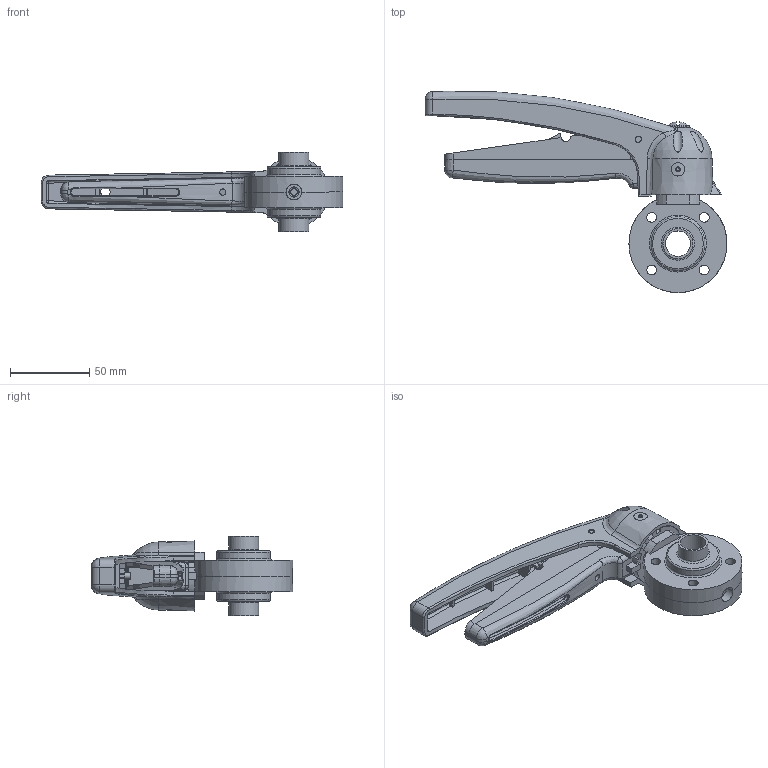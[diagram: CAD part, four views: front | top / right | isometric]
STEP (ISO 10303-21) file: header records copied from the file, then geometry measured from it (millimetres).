
FILE_DESCRIPTION(/* description */ ('VVF VALV.FARF.DN15 (19X1.5) SS EPDM 316 LEVA 5POS.'),/* implementation_level */ '2;1');
FILE_NAME(/* name */ 'C:\_DED_PWS\GIOR-G\DB\B\EBA\BEBACG015BEAA-00^SAGOMA.step',/* time_stamp */ '2020-08-31T09:01:03+02:00',/* author */ (''),/* organization */ (''),/* preprocessor_version */ 'ST-DEVELOPER v18',/* originating_system */ 'Autodesk Inventor 2020',/* authorisation */ '');
FILE_SCHEMA (('CONFIG_CONTROL_DESIGN'));
Length unit declared in the file: millimetre
Products named in the file (3): BEBACG015BEAA; Maniglia-5-posizioni-nuova-versione finale 01-2008- 25 - - 65; TWD006015BBA
Assembly tree (3 placements, depth 2):
  BEBACG015BEAA
    Maniglia-5-posizioni-nuova-versione finale 01-2008- 25 - - 65
    TWD006015BBA  x2
Bounding box: 191 x 127.39 x 50 mm (x, y, z)
Volume: 149423.4 mm3; surface area: 76153.4 mm2
Topology: 3 solids, 4 shells, 452 faces, 1221 edges, 794 vertices
Faces by surface type: plane 198, cylinder 110, bspline 81, cone 28, sphere 20, torus 15
Full cylindrical faces by diameter (mm): 4 x3, 6 x2, 6.2 x8, 6.5 x1, 13 x1, 14.5 x1, 16 x2, 19 x2, 21.1 x2, 28 x2, 34 x2, 62 x2
Entity records: 22806 total; most frequent: CARTESIAN_POINT 12140, ORIENTED_EDGE 2288, DIRECTION 1942, EDGE_CURVE 1144, VERTEX_POINT 738, AXIS2_PLACEMENT_3D 703, LINE 536, VECTOR 536
